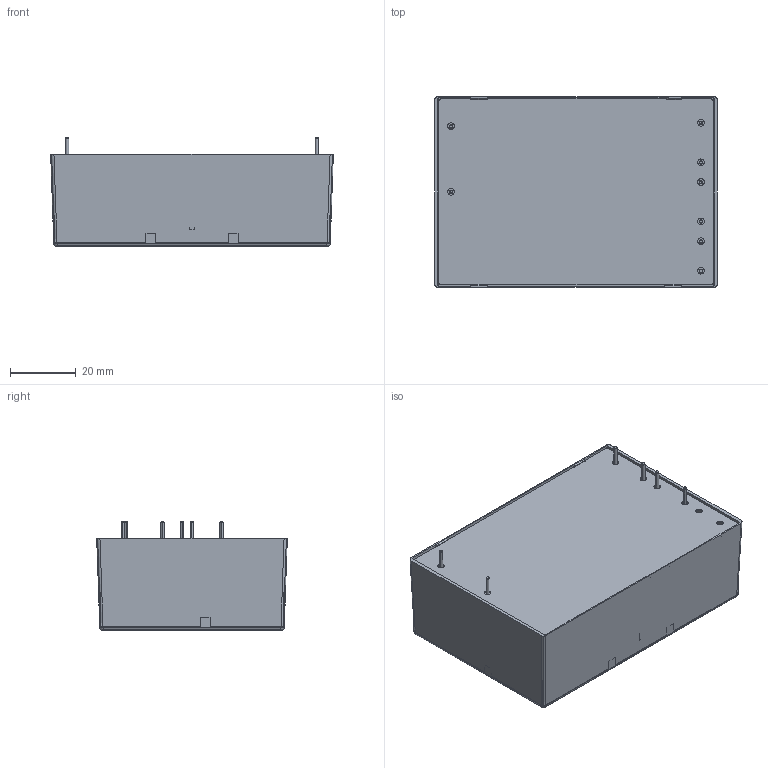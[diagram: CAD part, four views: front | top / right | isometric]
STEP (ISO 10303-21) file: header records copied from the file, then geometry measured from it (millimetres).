
FILE_DESCRIPTION((''),'2;1');
FILE_NAME('C:\Users\yaginuma\Documents\TRACO　STEPデータ送付関係\TMT30252(ピン_Dual_305シリーズ）\TMT30252.stp\TMT30252(pin_Dual_305_series）.stp','2013-02-05T11:58:10',('yaginuma'),(''),'Autodesk Inventor 9','Autodesk Inventor 9','');
FILE_SCHEMA(('AUTOMOTIVE_DESIGN { 1 0 10303 214 1 1 1 1 }'));
Length unit declared in the file: millimetre
Products named in the file (5): 30T_ピン_Assembly; CU40016N_上ケース; 30T基板; ピン; CL40011N_下ケース絶縁板
Assembly tree (9 placements, depth 2):
  30T_ピン_Assembly
    CU40016N_上ケース
    30T基板
    ピン  x6
    CL40011N_下ケース絶縁板
Bounding box: 86 x 58 x 33.1 mm (x, y, z)
Volume: 15425.2 mm3; surface area: 44561.7 mm2
Topology: 29 solids, 29 shells, 600 faces, 1523 edges, 978 vertices
Faces by surface type: plane 292, cylinder 147, bspline 133, cone 24, sphere 4
Entity records: 17940 total; most frequent: CARTESIAN_POINT 4738, ORIENTED_EDGE 2890, DIRECTION 2299, EDGE_CURVE 1445, VECTOR 957, LINE 957, VERTEX_POINT 938, AXIS2_PLACEMENT_3D 671
